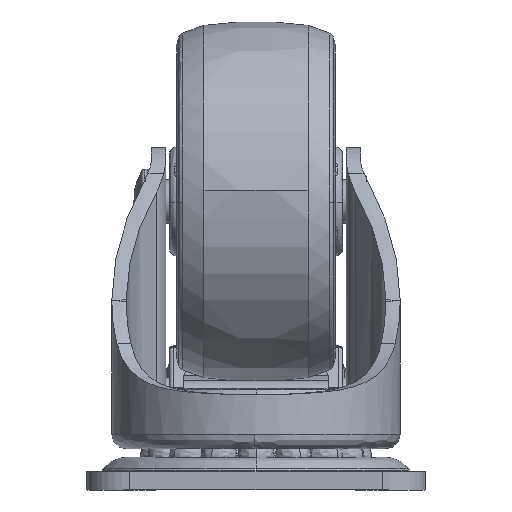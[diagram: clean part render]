
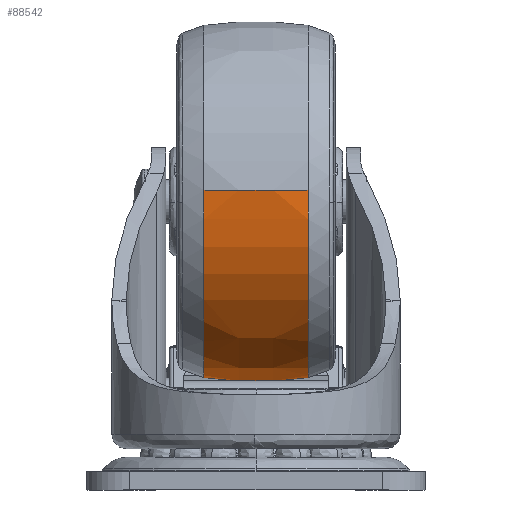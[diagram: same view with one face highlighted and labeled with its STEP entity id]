
A CAD part, left-side view. The second image highlights one B-rep face of the part: STEP entity #88542.
In plain terms, the highlighted free-form (B-spline) face has degree [3, 3] with [4, 4] control points.
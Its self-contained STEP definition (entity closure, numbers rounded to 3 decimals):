
#1722 = DIRECTION ( 'NONE',  ( -0.063, 0., -0.998 ) ) ;
#2368 = DIRECTION ( 'NONE',  ( -0.984, 0.167, 0.062 ) ) ;
#3220 = DIRECTION ( 'NONE',  ( 0., 0., -1. ) ) ;
#3580 = DIRECTION ( 'NONE',  ( 0.984, 0.167, -0.062 ) ) ;
#6623 = CARTESIAN_POINT ( 'NONE',  ( 44.982, 2.425, -16.674 ) ) ;
#7175 = AXIS2_PLACEMENT_3D ( 'NONE', #60125, #73433, #2368 ) ;
#7422 = CARTESIAN_POINT ( 'NONE',  ( 47.37, 7.211, 33.667 ) ) ;
#8098 = EDGE_CURVE ( 'NONE', #71859, #61533, #45976, .T. ) ;
#8790 = CIRCLE ( 'NONE', #37448, 24.418 ) ;
#12329 = CARTESIAN_POINT ( 'NONE',  ( -2.146, 2.425, 36.782 ) ) ;
#15834 = AXIS2_PLACEMENT_3D ( 'NONE', #23999, #80964, #3220 ) ;
#19162 = ORIENTED_EDGE ( 'NONE', *, *, #72695, .F. ) ;
#19235 = CARTESIAN_POINT ( 'NONE',  ( 23., 7.211, 10.782 ) ) ;
#19841 = CARTESIAN_POINT ( 'NONE',  ( -5.31, -2.425, -13.51 ) ) ;
#19879 = CARTESIAN_POINT ( 'NONE',  ( 23., -7.211, 10.782 ) ) ;
#22772 = DIRECTION ( 'NONE',  ( 0., 1., 0. ) ) ;
#23999 = CARTESIAN_POINT ( 'NONE',  ( 23., 7.211, 35.2 ) ) ;
#24074 = DIRECTION ( 'NONE',  ( 0., 0., -1. ) ) ;
#25689 = VERTEX_POINT ( 'NONE', #73556 ) ;
#26389 = VERTEX_POINT ( 'NONE', #19879 ) ;
#28323 = CARTESIAN_POINT ( 'NONE',  ( 44.982, -2.425, -16.674 ) ) ;
#29752 = CARTESIAN_POINT ( 'NONE',  ( -1.37, 7.211, 36.733 ) ) ;
#32187 = VERTEX_POINT ( 'NONE', #19235 ) ;
#32547 = DIRECTION ( 'NONE',  ( 0., 1., 0. ) ) ;
#35390 = AXIS2_PLACEMENT_3D ( 'NONE', #82717, #1722, #3580 ) ;
#35831 = CIRCLE ( 'NONE', #7175, 45. ) ;
#37126 = AXIS2_PLACEMENT_3D ( 'NONE', #88279, #22772, #87826 ) ;
#37448 = AXIS2_PLACEMENT_3D ( 'NONE', #91709, #91264, #84188 ) ;
#37957 = EDGE_CURVE ( 'NONE', #39832, #25689, #35831, .T. ) ;
#39441 = ORIENTED_EDGE ( 'NONE', *, *, #51282, .T. ) ;
#39832 = VERTEX_POINT ( 'NONE', #29752 ) ;
#41114 = CARTESIAN_POINT ( 'NONE',  ( -1.37, -7.211, 36.733 ) ) ;
#42013 = CARTESIAN_POINT ( 'NONE',  ( -5.31, 2.425, -13.51 ) ) ;
#42494 = CARTESIAN_POINT ( 'NONE',  ( -1.37, 7.211, 36.733 ) ) ;
#42956 = CARTESIAN_POINT ( 'NONE',  ( -4.437, 7.211, -12.007 ) ) ;
#44021 = EDGE_CURVE ( 'NONE', #61533, #26389, #8790, .T. ) ;
#45976 = CIRCLE ( 'NONE', #35390, 45. ) ;
#49476 = EDGE_CURVE ( 'NONE', #71859, #32187, #89922, .T. ) ;
#50180 = ORIENTED_EDGE ( 'NONE', *, *, #8098, .T. ) ;
#51199 = EDGE_LOOP ( 'NONE', ( #71770, #50180, #73636, #39441, #77112, #19162 ) ) ;
#51282 = EDGE_CURVE ( 'NONE', #26389, #25689, #81130, .T. ) ;
#57263 = CARTESIAN_POINT ( 'NONE',  ( 44.304, -7.211, -15.074 ) ) ;
#59634 = CIRCLE ( 'NONE', #15834, 24.418 ) ;
#60125 = CARTESIAN_POINT ( 'NONE',  ( 42.961, 0., 33.944 ) ) ;
#61533 = VERTEX_POINT ( 'NONE', #66769 ) ;
#64332 = CARTESIAN_POINT ( 'NONE',  ( 48.146, 2.425, 33.618 ) ) ;
#66769 = CARTESIAN_POINT ( 'NONE',  ( 47.37, -7.211, 33.667 ) ) ;
#70071 = CARTESIAN_POINT ( 'NONE',  ( 47.37, -7.211, 33.667 ) ) ;
#71528 =( BOUNDED_SURFACE ( )  B_SPLINE_SURFACE ( 3, 3, ( 
 ( #42494, #42956, #85323, #92378 ),
 ( #12329, #42013, #6623, #64332 ),
 ( #93292, #19841, #28323, #91889 ),
 ( #41114, #93772, #57263, #70071 ) ),
 .UNSPECIFIED., .F., .F., .F. ) 
 B_SPLINE_SURFACE_WITH_KNOTS ( ( 4, 4 ),
 ( 4, 4 ),
 ( 0., 1. ),
 ( 0., 1. ),
 .UNSPECIFIED. ) 
 GEOMETRIC_REPRESENTATION_ITEM ( )  RATIONAL_B_SPLINE_SURFACE ( (
 ( 1., 0.333, 0.333, 1.),
 ( 0.991, 0.33, 0.33, 0.991),
 ( 0.991, 0.33, 0.33, 0.991),
 ( 1., 0.333, 0.333, 1.) ) ) 
 REPRESENTATION_ITEM ( '' )  SURFACE ( )  );
#71770 = ORIENTED_EDGE ( 'NONE', *, *, #49476, .F. ) ;
#71859 = VERTEX_POINT ( 'NONE', #7422 ) ;
#72695 = EDGE_CURVE ( 'NONE', #32187, #39832, #59634, .T. ) ;
#73433 = DIRECTION ( 'NONE',  ( 0.063, 0., 0.998 ) ) ;
#73556 = CARTESIAN_POINT ( 'NONE',  ( -1.37, -7.211, 36.733 ) ) ;
#73636 = ORIENTED_EDGE ( 'NONE', *, *, #44021, .T. ) ;
#77112 = ORIENTED_EDGE ( 'NONE', *, *, #37957, .F. ) ;
#80964 = DIRECTION ( 'NONE',  ( 0., 1., 0. ) ) ;
#81130 = CIRCLE ( 'NONE', #37126, 24.418 ) ;
#82717 = CARTESIAN_POINT ( 'NONE',  ( 3.039, 0., 36.456 ) ) ;
#83413 = CARTESIAN_POINT ( 'NONE',  ( 23., 7.211, 35.2 ) ) ;
#84188 = DIRECTION ( 'NONE',  ( 0., 0., 1. ) ) ;
#85323 = CARTESIAN_POINT ( 'NONE',  ( 44.304, 7.211, -15.074 ) ) ;
#87826 = DIRECTION ( 'NONE',  ( 0., 0., 1. ) ) ;
#88279 = CARTESIAN_POINT ( 'NONE',  ( 23., -7.211, 35.2 ) ) ;
#88542 = ADVANCED_FACE ( 'NONE', ( #92845 ), #71528, .F. ) ;
#89922 = CIRCLE ( 'NONE', #91402, 24.418 ) ;
#91264 = DIRECTION ( 'NONE',  ( 0., 1., 0. ) ) ;
#91402 = AXIS2_PLACEMENT_3D ( 'NONE', #83413, #32547, #24074 ) ;
#91709 = CARTESIAN_POINT ( 'NONE',  ( 23., -7.211, 35.2 ) ) ;
#91889 = CARTESIAN_POINT ( 'NONE',  ( 48.146, -2.425, 33.618 ) ) ;
#92378 = CARTESIAN_POINT ( 'NONE',  ( 47.37, 7.211, 33.667 ) ) ;
#92845 = FACE_OUTER_BOUND ( 'NONE', #51199, .T. ) ;
#93292 = CARTESIAN_POINT ( 'NONE',  ( -2.146, -2.425, 36.782 ) ) ;
#93772 = CARTESIAN_POINT ( 'NONE',  ( -4.437, -7.211, -12.007 ) ) ;
